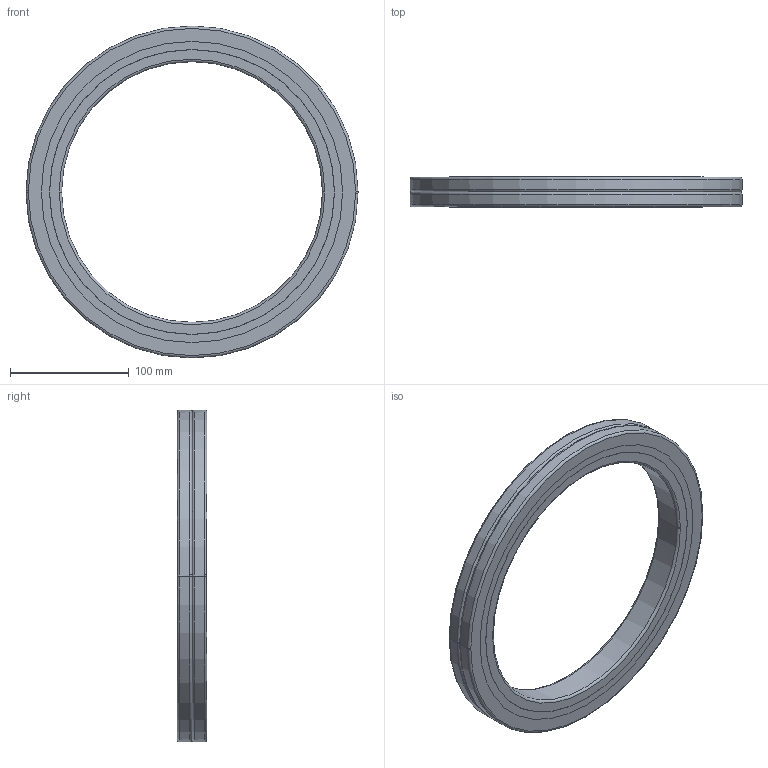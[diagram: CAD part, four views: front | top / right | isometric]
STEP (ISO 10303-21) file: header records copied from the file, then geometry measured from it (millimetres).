
FILE_DESCRIPTION(('no description'),'unknown implementation level');
FILE_NAME('CRBA22025_42.stp',' ',('HIWIN GmbH'),('CADClick - KiM GmbH - www.kimweb.de'),'unknown preprocess','ACIS','unknown authorization');
FILE_SCHEMA(('automotive_design'));
Length unit declared in the file: millimetre
Products named in the file (5): CRBA22025_1; CRBA22025_2; CRBA22025_3; CRBA22025_4; CRBA22025
Bounding box: 280 x 25 x 280 mm (x, y, z)
Volume: 479606.1 mm3; surface area: 161448.9 mm2
Topology: 5 solids, 5 shells, 54 faces, 120 edges, 76 vertices
Faces by surface type: torus 24, cylinder 20, plane 10
Entity records: 3096 total; most frequent: DIRECTION 338, STYLED_ITEM 255, PRESENTATION_STYLE_ASSIGNMENT 255, CARTESIAN_POINT 255, COLOUR_RGB 255, ORIENTED_EDGE 240, AXIS2_PLACEMENT_3D 159, EDGE_CURVE 120
